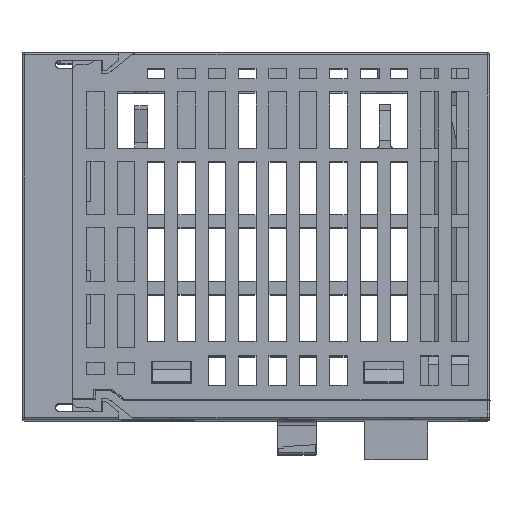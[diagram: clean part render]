
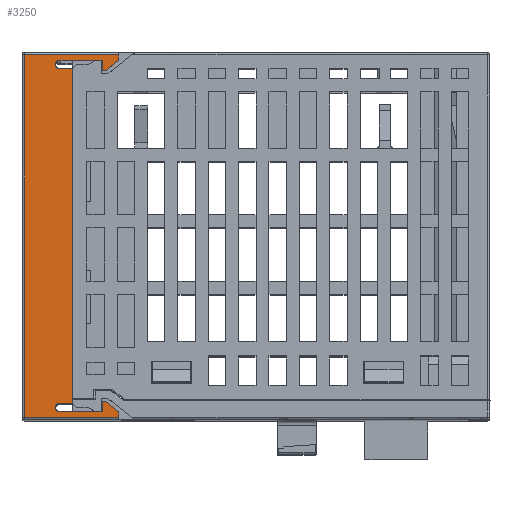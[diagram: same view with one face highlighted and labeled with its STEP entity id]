
A CAD part, top view. The second image highlights one B-rep face of the part: STEP entity #3250.
In plain terms, the highlighted planar face has unit normal (0, 0, 1).
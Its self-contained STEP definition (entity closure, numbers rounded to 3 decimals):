
#3250=ADVANCED_FACE('',(#16489),#16491,.T.);
#16489=FACE_BOUND('',#16490,.T.);
#16490=EDGE_LOOP('',(#28918,#28919,#28920,#28921,#28922,#28923,#28924,#28925,#28926,
#28927,#28928,#28929,#28930,#28931,#28932,#28933));
#16491=PLANE('',#16492);
#16492=AXIS2_PLACEMENT_3D('',#16493,#16494,#16495);
#16493=CARTESIAN_POINT('',(-296.493,-176.219,14.231));
#16494=DIRECTION('',(0.,0.,1.));
#16495=DIRECTION('',(0.,1.,0.));
#28918=ORIENTED_EDGE('',*,*,#36467,.T.);
#28919=ORIENTED_EDGE('',*,*,#36397,.T.);
#28920=ORIENTED_EDGE('',*,*,#36468,.T.);
#28921=ORIENTED_EDGE('',*,*,#36469,.T.);
#28922=ORIENTED_EDGE('',*,*,#36470,.T.);
#28923=ORIENTED_EDGE('',*,*,#36471,.T.);
#28924=ORIENTED_EDGE('',*,*,#36472,.T.);
#28925=ORIENTED_EDGE('',*,*,#36473,.T.);
#28926=ORIENTED_EDGE('',*,*,#36474,.T.);
#28927=ORIENTED_EDGE('',*,*,#36475,.T.);
#28928=ORIENTED_EDGE('',*,*,#36476,.T.);
#28929=ORIENTED_EDGE('',*,*,#36477,.T.);
#28930=ORIENTED_EDGE('',*,*,#36478,.T.);
#28931=ORIENTED_EDGE('',*,*,#36479,.T.);
#28932=ORIENTED_EDGE('',*,*,#36480,.T.);
#28933=ORIENTED_EDGE('',*,*,#36481,.T.);
#36397=EDGE_CURVE('',#41276,#41274,#41277,.T.);
#36467=EDGE_CURVE('',#41415,#41276,#41416,.T.);
#36468=EDGE_CURVE('',#41274,#41417,#41418,.T.);
#36469=EDGE_CURVE('',#41417,#41419,#41420,.T.);
#36470=EDGE_CURVE('',#41419,#41421,#41422,.T.);
#36471=EDGE_CURVE('',#41421,#41423,#41424,.T.);
#36472=EDGE_CURVE('',#41423,#41425,#41426,.T.);
#36473=EDGE_CURVE('',#41425,#41427,#41428,.T.);
#36474=EDGE_CURVE('',#41427,#41429,#41430,.T.);
#36475=EDGE_CURVE('',#41429,#41431,#41432,.T.);
#36476=EDGE_CURVE('',#41431,#41433,#41434,.T.);
#36477=EDGE_CURVE('',#41433,#41435,#41436,.T.);
#36478=EDGE_CURVE('',#41435,#41437,#41438,.T.);
#36479=EDGE_CURVE('',#41437,#41439,#41440,.T.);
#36480=EDGE_CURVE('',#41439,#41441,#41442,.T.);
#36481=EDGE_CURVE('',#41441,#41415,#41443,.T.);
#41274=VERTEX_POINT('',#55471);
#41276=VERTEX_POINT('',#55474);
#41277=LINE('',#55475,#55476);
#41415=VERTEX_POINT('',#57990);
#41416=(BOUNDED_CURVE()B_SPLINE_CURVE(2,
(#57991,#57992,#57993,#57994,#57995,#57996,#57997,#57998,#57999),
.UNSPECIFIED.,.F.,.F.)B_SPLINE_CURVE_WITH_KNOTS((3,2,2,2,3),
(0.,0.253,0.449,0.645,1.),
.UNSPECIFIED.)CURVE()GEOMETRIC_REPRESENTATION_ITEM()RATIONAL_B_SPLINE_CURVE((1.,
1.,1.,0.707,1.,0.707,1.,1.,1.))REPRESENTATION_ITEM(''));
#41417=VERTEX_POINT('',#58000);
#41418=(BOUNDED_CURVE()B_SPLINE_CURVE(2,
(#58001,#58002,#58003,#58004,#58005,#58006,#58007,#58008,#58009),
.UNSPECIFIED.,.F.,.F.)B_SPLINE_CURVE_WITH_KNOTS((3,2,2,2,3),
(0.,0.355,0.551,0.747,1.),
.UNSPECIFIED.)CURVE()GEOMETRIC_REPRESENTATION_ITEM()RATIONAL_B_SPLINE_CURVE((1.,
1.,1.,0.707,1.,0.707,1.,1.,1.))REPRESENTATION_ITEM(''));
#41419=VERTEX_POINT('',#58010);
#41420=LINE('',#58011,#58012);
#41421=VERTEX_POINT('',#58014);
#41422=LINE('',#58015,#58016);
#41423=VERTEX_POINT('',#58018);
#41424=LINE('',#58019,#58020);
#41425=VERTEX_POINT('',#58022);
#41426=LINE('',#58023,#58024);
#41427=VERTEX_POINT('',#58026);
#41428=LINE('',#58027,#58028);
#41429=VERTEX_POINT('',#58030);
#41430=LINE('',#58031,#58032);
#41431=VERTEX_POINT('',#58034);
#41432=LINE('',#58035,#58036);
#41433=VERTEX_POINT('',#58038);
#41434=LINE('',#58039,#58040);
#41435=VERTEX_POINT('',#58042);
#41436=LINE('',#58043,#58044);
#41437=VERTEX_POINT('',#58046);
#41438=LINE('',#58047,#58048);
#41439=VERTEX_POINT('',#58050);
#41440=LINE('',#58051,#58052);
#41441=VERTEX_POINT('',#58054);
#41442=LINE('',#58055,#58056);
#41443=LINE('',#58058,#58059);
#55471=CARTESIAN_POINT('',(-287.983,-183.739,14.231));
#55474=CARTESIAN_POINT('',(-287.983,-233.739,14.231));
#55475=CARTESIAN_POINT('',(-287.983,-233.739,14.231));
#55476=VECTOR('',#55477,1.);
#55477=DIRECTION('',(0.,1.,0.));
#57990=CARTESIAN_POINT('',(-288.513,-235.039,14.231));
#57991=CARTESIAN_POINT('',(-288.513,-235.039,14.231));
#57992=CARTESIAN_POINT('',(-289.173,-235.039,14.231));
#57993=CARTESIAN_POINT('',(-289.833,-235.039,14.231));
#57994=CARTESIAN_POINT('',(-290.483,-235.039,14.231));
#57995=CARTESIAN_POINT('',(-290.483,-234.389,14.231));
#57996=CARTESIAN_POINT('',(-290.483,-233.739,14.231));
#57997=CARTESIAN_POINT('',(-289.833,-233.739,14.231));
#57998=CARTESIAN_POINT('',(-288.908,-233.739,14.231));
#57999=CARTESIAN_POINT('',(-287.983,-233.739,14.231));
#58000=CARTESIAN_POINT('',(-288.513,-182.439,14.231));
#58001=CARTESIAN_POINT('',(-287.983,-183.739,14.231));
#58002=CARTESIAN_POINT('',(-288.908,-183.739,14.231));
#58003=CARTESIAN_POINT('',(-289.833,-183.739,14.231));
#58004=CARTESIAN_POINT('',(-290.483,-183.739,14.231));
#58005=CARTESIAN_POINT('',(-290.483,-183.089,14.231));
#58006=CARTESIAN_POINT('',(-290.483,-182.439,14.231));
#58007=CARTESIAN_POINT('',(-289.833,-182.439,14.231));
#58008=CARTESIAN_POINT('',(-289.173,-182.439,14.231));
#58009=CARTESIAN_POINT('',(-288.513,-182.439,14.231));
#58010=CARTESIAN_POINT('',(-283.483,-182.439,14.231));
#58011=CARTESIAN_POINT('',(-288.513,-182.439,14.231));
#58012=VECTOR('',#58013,1.);
#58013=DIRECTION('',(1.,0.,0.));
#58014=CARTESIAN_POINT('',(-283.483,-184.039,14.231));
#58015=CARTESIAN_POINT('',(-283.483,-182.439,14.231));
#58016=VECTOR('',#58017,1.);
#58017=DIRECTION('',(0.,-1.,0.));
#58018=CARTESIAN_POINT('',(-283.031,-184.039,14.231));
#58019=CARTESIAN_POINT('',(-283.483,-184.039,14.231));
#58020=VECTOR('',#58021,1.);
#58021=DIRECTION('',(1.,0.,0.));
#58022=CARTESIAN_POINT('',(-280.983,-182.439,14.231));
#58023=CARTESIAN_POINT('',(-283.031,-184.039,14.231));
#58024=VECTOR('',#58025,1.);
#58025=DIRECTION('',(0.788,0.616,0.));
#58026=CARTESIAN_POINT('',(-280.983,-181.639,14.231));
#58027=CARTESIAN_POINT('',(-280.983,-182.439,14.231));
#58028=VECTOR('',#58029,1.);
#58029=DIRECTION('',(0.,1.,0.));
#58030=CARTESIAN_POINT('',(-295.083,-181.639,14.231));
#58031=CARTESIAN_POINT('',(-280.983,-181.639,14.231));
#58032=VECTOR('',#58033,1.);
#58033=DIRECTION('',(-1.,0.,0.));
#58034=CARTESIAN_POINT('',(-295.083,-235.839,14.231));
#58035=CARTESIAN_POINT('',(-295.083,-181.639,14.231));
#58036=VECTOR('',#58037,1.);
#58037=DIRECTION('',(0.,-1.,0.));
#58038=CARTESIAN_POINT('',(-280.983,-235.839,14.231));
#58039=CARTESIAN_POINT('',(-295.083,-235.839,14.231));
#58040=VECTOR('',#58041,1.);
#58041=DIRECTION('',(1.,0.,0.));
#58042=CARTESIAN_POINT('',(-280.983,-235.039,14.231));
#58043=CARTESIAN_POINT('',(-280.983,-235.839,14.231));
#58044=VECTOR('',#58045,1.);
#58045=DIRECTION('',(0.,1.,0.));
#58046=CARTESIAN_POINT('',(-283.031,-233.439,14.231));
#58047=CARTESIAN_POINT('',(-280.983,-235.039,14.231));
#58048=VECTOR('',#58049,1.);
#58049=DIRECTION('',(-0.788,0.616,0.));
#58050=CARTESIAN_POINT('',(-283.483,-233.439,14.231));
#58051=CARTESIAN_POINT('',(-283.031,-233.439,14.231));
#58052=VECTOR('',#58053,1.);
#58053=DIRECTION('',(-1.,0.,0.));
#58054=CARTESIAN_POINT('',(-283.483,-235.039,14.231));
#58055=CARTESIAN_POINT('',(-283.483,-233.439,14.231));
#58056=VECTOR('',#58057,1.);
#58057=DIRECTION('',(0.,-1.,0.));
#58058=CARTESIAN_POINT('',(-283.483,-235.039,14.231));
#58059=VECTOR('',#58060,1.);
#58060=DIRECTION('',(-1.,0.,0.));
